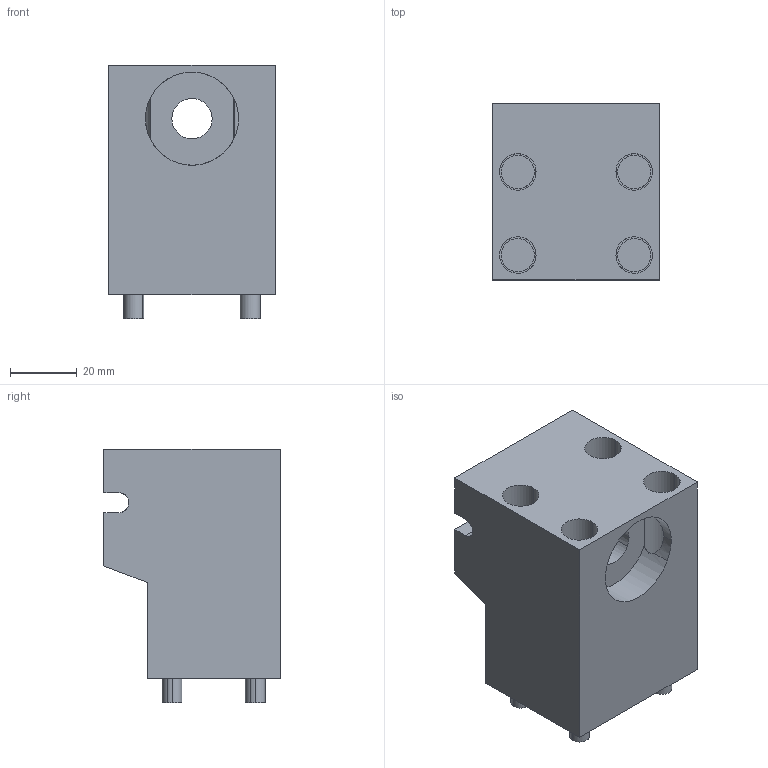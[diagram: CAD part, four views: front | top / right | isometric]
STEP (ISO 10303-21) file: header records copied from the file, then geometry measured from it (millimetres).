
FILE_DESCRIPTION(('STEP AP214'),'1');
FILE_NAME('EGT172_I_1706238_RD30_K40_HU.CATPart.stp','2015-09-14T13:10:45',('3D-Tool'),(' '),'Spatial InterOp 3D',' ',' ');
FILE_SCHEMA(('automotive_design'));
Length unit declared in the file: millimetre
Products named in the file (5): EGT172_I_1706238_RD30_K40_HU|EGT172_RD30_K40_HU|Bohrbearbeitung; 1; 2; 3; 4
Bounding box: 50 x 53 x 76.1 mm (x, y, z)
Volume: 129948.6 mm3; surface area: 33142.3 mm2
Topology: 5 solids, 5 shells, 114 faces, 301 edges, 200 vertices
Faces by surface type: cylinder 83, plane 31
Entity records: 4974 total; most frequent: CARTESIAN_POINT 967, DIRECTION 673, ORIENTED_EDGE 602, EDGE_CURVE 301, AXIS2_PLACEMENT_3D 275, VERTEX_POINT 200, CIRCLE 156, EDGE_LOOP 135
